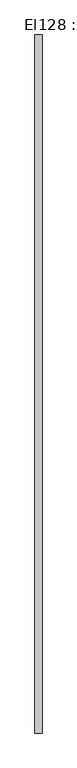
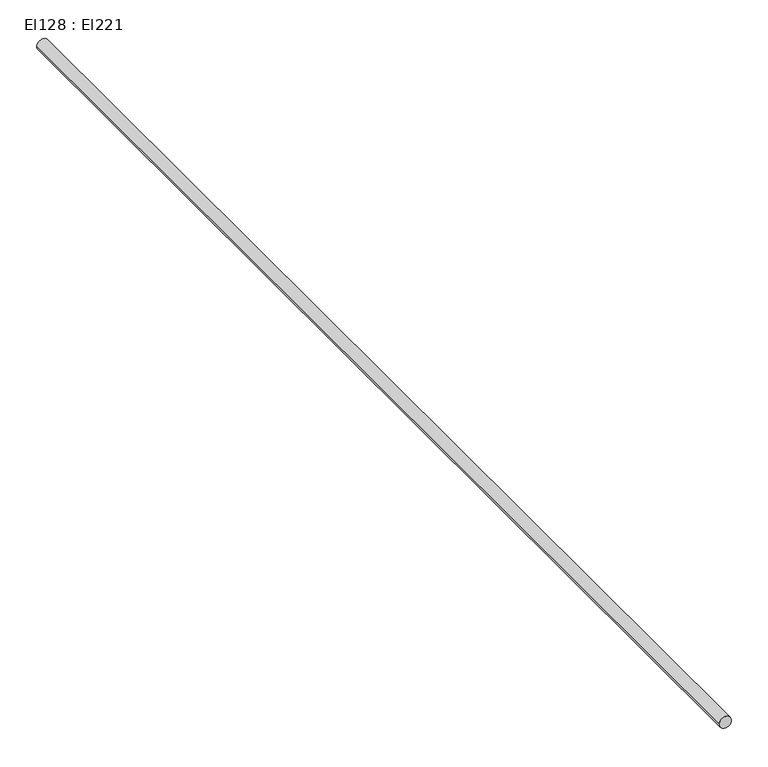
"""IFC4 building model written with IfcOpenShell, lengths in millimetres: cable carrier segment geometry, El128 : El221."""

from ifc_helpers import new_model, si_unit, point, frame, frame_2d, origin, place, context, project, spatial, circle_curve, trimmed, segment, composite_curve, outline, extrude, source, transform, mapped, element, save


def el128_el221_22956da2(model_context):
    return source(origin(), model_context, "Body", "SweptSolid", [
        extrude(outline(composite_curve([segment(trimmed(circle_curve(frame_2d((1800.0, 5364.4746511)), 9.5), [point((1800.0, 5354.9746511))], [point((1800.0, 5373.9746511))], False, "CARTESIAN"), True, "CONTINUOUS"), segment(trimmed(circle_curve(frame_2d((1800.0, 5364.4746511)), 9.5), [point((1800.0, 5373.9746511))], [point((1800.0, 5354.9746511))], False, "CARTESIAN"), True, "CONTINUOUS")], self_intersect=False)), frame((0.0, 15585.3751745, 0.0), z_axis=(0.0, 1.0, 0.0), x_axis=(0.0, 0.0, 1.0)), (0.0, 0.0, 1.0), 1853.07),
    ])


if __name__ == "__main__":
    model = new_model("IFC4")
    model_context = context("Model", 3, world=origin())
    ifc_project = project(units=[si_unit("LENGTHUNIT", "METRE", prefix="MILLI")], contexts=[model_context])
    site = spatial("IfcSite", under=ifc_project)
    building = spatial("IfcBuilding", under=site)
    placement = place(None, origin())
    el128_el221_shape = el128_el221_22956da2(model_context)
    element("IfcCableCarrierSegment", 1, ObjectType="El128 : El221", at=placement, inside=building, context=model_context, shape_type="MappedRepresentation", body=[
        mapped(el128_el221_shape, transform((0.0, 0.0, 0.0), x_axis=(1.0, 0.0, 0.0), y_axis=(0.0, 1.0, 0.0), z_axis=(0.0, 0.0, 1.0))),
    ])
    save(model, "model.ifc")
